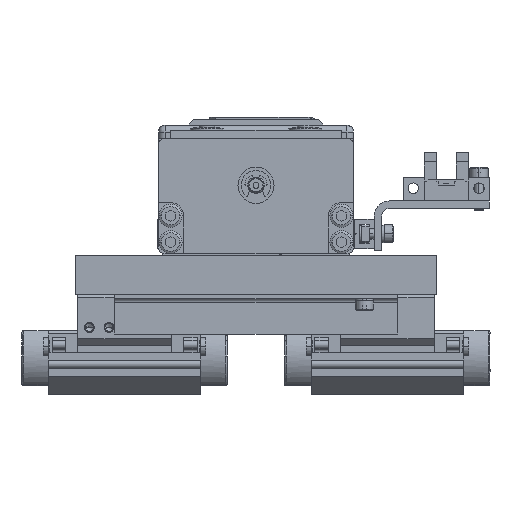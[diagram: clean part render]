
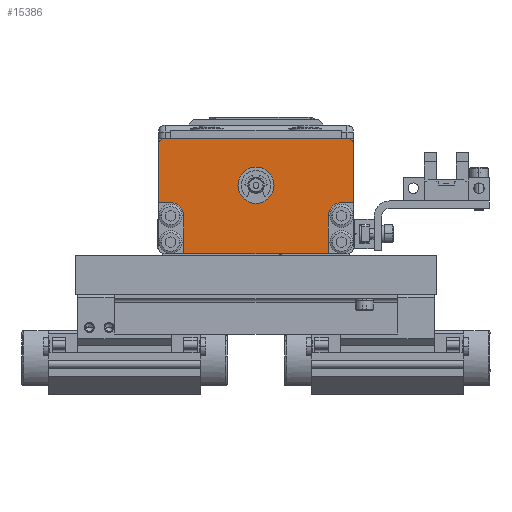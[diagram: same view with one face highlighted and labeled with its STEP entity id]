
A CAD part, front view. The second image highlights one B-rep face of the part: STEP entity #15386.
In plain terms, the highlighted planar face has unit normal (0, -1, 0) as drawn and (1, 0, 0) by its records, which use the part's own axes.
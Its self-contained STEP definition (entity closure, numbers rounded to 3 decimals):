
#282 = VECTOR ( 'NONE', #4202, 1000. ) ;
#1353 = LINE ( 'NONE', #82277, #282 ) ;
#2786 = CARTESIAN_POINT ( 'NONE',  ( 11., -9.3, 26. ) ) ;
#2871 = CARTESIAN_POINT ( 'NONE',  ( 11., -9.3, -22. ) ) ;
#2984 = FACE_BOUND ( 'NONE', #76307, .T. ) ;
#3980 = EDGE_CURVE ( 'NONE', #40652, #16389, #11954, .T. ) ;
#4202 = DIRECTION ( 'NONE',  ( 0., 1., 0. ) ) ;
#4353 = DIRECTION ( 'NONE',  ( 1., 0., 0. ) ) ;
#4380 = VERTEX_POINT ( 'NONE', #66827 ) ;
#5463 = DIRECTION ( 'NONE',  ( -1., 0., 0. ) ) ;
#5477 = EDGE_CURVE ( 'NONE', #81484, #4380, #46360, .T. ) ;
#5943 = DIRECTION ( 'NONE',  ( 0., 0., 1. ) ) ;
#6011 = EDGE_CURVE ( 'NONE', #11008, #52977, #12235, .T. ) ;
#6095 = EDGE_CURVE ( 'NONE', #36552, #67584, #82985, .T. ) ;
#6241 = ORIENTED_EDGE ( 'NONE', *, *, #79368, .T. ) ;
#6594 = DIRECTION ( 'NONE',  ( 0., 1., 0. ) ) ;
#7627 = ORIENTED_EDGE ( 'NONE', *, *, #3980, .F. ) ;
#9186 = VECTOR ( 'NONE', #24264, 1000. ) ;
#11008 = VERTEX_POINT ( 'NONE', #48322 ) ;
#11023 = DIRECTION ( 'NONE',  ( 0., 0., -1. ) ) ;
#11325 = FACE_OUTER_BOUND ( 'NONE', #27346, .T. ) ;
#11954 = CIRCLE ( 'NONE', #14274, 5.5 ) ;
#12235 = CIRCLE ( 'NONE', #21662, 2. ) ;
#12958 = DIRECTION ( 'NONE',  ( 0., 0., 1. ) ) ;
#13265 = AXIS2_PLACEMENT_3D ( 'NONE', #84131, #77811, #11023 ) ;
#13316 = EDGE_CURVE ( 'NONE', #11008, #4380, #64963, .T. ) ;
#14274 = AXIS2_PLACEMENT_3D ( 'NONE', #76414, #35929, #55475 ) ;
#15386 = ADVANCED_FACE ( 'NONE', ( #2984, #11325 ), #79330, .F. ) ;
#16197 = CARTESIAN_POINT ( 'NONE',  ( 11., 12.2, -29.7 ) ) ;
#16389 = VERTEX_POINT ( 'NONE', #82038 ) ;
#16481 = ORIENTED_EDGE ( 'NONE', *, *, #13316, .T. ) ;
#17511 = ORIENTED_EDGE ( 'NONE', *, *, #6011, .F. ) ;
#17552 = EDGE_CURVE ( 'NONE', #17904, #25543, #73005, .T. ) ;
#17600 = VERTEX_POINT ( 'NONE', #64872 ) ;
#17904 = VERTEX_POINT ( 'NONE', #74871 ) ;
#18006 = CIRCLE ( 'NONE', #13265, 5.5 ) ;
#18581 = CARTESIAN_POINT ( 'NONE',  ( 11., -5.3, 0. ) ) ;
#19202 = ORIENTED_EDGE ( 'NONE', *, *, #23596, .F. ) ;
#19260 = LINE ( 'NONE', #66226, #45932 ) ;
#19365 = ORIENTED_EDGE ( 'NONE', *, *, #84030, .F. ) ;
#19898 = ORIENTED_EDGE ( 'NONE', *, *, #6095, .F. ) ;
#20746 = ORIENTED_EDGE ( 'NONE', *, *, #17552, .F. ) ;
#21295 = ORIENTED_EDGE ( 'NONE', *, *, #77738, .T. ) ;
#21662 = AXIS2_PLACEMENT_3D ( 'NONE', #76545, #37788, #24334 ) ;
#23596 = EDGE_CURVE ( 'NONE', #16389, #40652, #18006, .T. ) ;
#24264 = DIRECTION ( 'NONE',  ( 0., 0., -1. ) ) ;
#24334 = DIRECTION ( 'NONE',  ( 0., 0., 1. ) ) ;
#24599 = EDGE_CURVE ( 'NONE', #50622, #17904, #70047, .T. ) ;
#25543 = VERTEX_POINT ( 'NONE', #2871 ) ;
#25966 = AXIS2_PLACEMENT_3D ( 'NONE', #35682, #61815, #29104 ) ;
#27346 = EDGE_LOOP ( 'NONE', ( #55096, #19898, #28720, #19365, #44061, #21295, #20746, #67465, #6241, #17511, #16481, #85113 ) ) ;
#28383 = EDGE_CURVE ( 'NONE', #69742, #17600, #32874, .T. ) ;
#28720 = ORIENTED_EDGE ( 'NONE', *, *, #55024, .F. ) ;
#29104 = DIRECTION ( 'NONE',  ( 0., 0., 1. ) ) ;
#30479 = DIRECTION ( 'NONE',  ( 0., 0., -1. ) ) ;
#30837 = CARTESIAN_POINT ( 'NONE',  ( 11., -20.8, 29.7 ) ) ;
#32028 = DIRECTION ( 'NONE',  ( 0., 0., 1. ) ) ;
#32874 = LINE ( 'NONE', #30837, #9186 ) ;
#33045 = VECTOR ( 'NONE', #70820, 1000. ) ;
#35192 = LINE ( 'NONE', #70241, #42478 ) ;
#35682 = CARTESIAN_POINT ( 'NONE',  ( 11., -21.3, 0. ) ) ;
#35929 = DIRECTION ( 'NONE',  ( 1., 0., 0. ) ) ;
#36552 = VERTEX_POINT ( 'NONE', #61236 ) ;
#36949 = DIRECTION ( 'NONE',  ( 0., -1., 0. ) ) ;
#37053 = CARTESIAN_POINT ( 'NONE',  ( 11., -5.3, -29.7 ) ) ;
#37732 = CARTESIAN_POINT ( 'NONE',  ( 11., -20.8, -22. ) ) ;
#37788 = DIRECTION ( 'NONE',  ( -1., 0., 0. ) ) ;
#40652 = VERTEX_POINT ( 'NONE', #84983 ) ;
#42478 = VECTOR ( 'NONE', #36949, 1000. ) ;
#43351 = AXIS2_PLACEMENT_3D ( 'NONE', #77240, #4353, #30479 ) ;
#44061 = ORIENTED_EDGE ( 'NONE', *, *, #28383, .T. ) ;
#44514 = CARTESIAN_POINT ( 'NONE',  ( 11., 12.2, 27.7 ) ) ;
#45562 = CARTESIAN_POINT ( 'NONE',  ( 11., 14.2, 29.7 ) ) ;
#45932 = VECTOR ( 'NONE', #6594, 1000. ) ;
#46255 = CIRCLE ( 'NONE', #61587, 4. ) ;
#46360 = CIRCLE ( 'NONE', #56296, 2. ) ;
#48322 = CARTESIAN_POINT ( 'NONE',  ( 11., 14.2, -27.7 ) ) ;
#48806 = DIRECTION ( 'NONE',  ( 0., 0., -1. ) ) ;
#48973 = CARTESIAN_POINT ( 'NONE',  ( 11., -20.8, 22. ) ) ;
#49706 = VERTEX_POINT ( 'NONE', #84327 ) ;
#50622 = VERTEX_POINT ( 'NONE', #37053 ) ;
#52977 = VERTEX_POINT ( 'NONE', #16197 ) ;
#54817 = DIRECTION ( 'NONE',  ( 1., 0., 0. ) ) ;
#55024 = EDGE_CURVE ( 'NONE', #49706, #36552, #46255, .T. ) ;
#55096 = ORIENTED_EDGE ( 'NONE', *, *, #63274, .T. ) ;
#55475 = DIRECTION ( 'NONE',  ( 0., 0., -1. ) ) ;
#56296 = AXIS2_PLACEMENT_3D ( 'NONE', #44514, #5463, #12958 ) ;
#60203 = CARTESIAN_POINT ( 'NONE',  ( 11., 12.2, 29.7 ) ) ;
#61236 = CARTESIAN_POINT ( 'NONE',  ( 11., -5.3, 26. ) ) ;
#61587 = AXIS2_PLACEMENT_3D ( 'NONE', #2786, #54817, #48806 ) ;
#61815 = DIRECTION ( 'NONE',  ( -1., 0., 0. ) ) ;
#63274 = EDGE_CURVE ( 'NONE', #81484, #67584, #35192, .T. ) ;
#63476 = VECTOR ( 'NONE', #32028, 1000. ) ;
#64169 = CARTESIAN_POINT ( 'NONE',  ( 11., -5.3, 29.7 ) ) ;
#64481 = CARTESIAN_POINT ( 'NONE',  ( 11., -5.3, 0. ) ) ;
#64872 = CARTESIAN_POINT ( 'NONE',  ( 11., -20.8, -22. ) ) ;
#64963 = LINE ( 'NONE', #45562, #66018 ) ;
#66018 = VECTOR ( 'NONE', #5943, 1000. ) ;
#66226 = CARTESIAN_POINT ( 'NONE',  ( 11., -21.3, 22. ) ) ;
#66827 = CARTESIAN_POINT ( 'NONE',  ( 11., 14.2, 27.7 ) ) ;
#67465 = ORIENTED_EDGE ( 'NONE', *, *, #24599, .F. ) ;
#67584 = VERTEX_POINT ( 'NONE', #64169 ) ;
#69742 = VERTEX_POINT ( 'NONE', #48973 ) ;
#70047 = LINE ( 'NONE', #64481, #33045 ) ;
#70241 = CARTESIAN_POINT ( 'NONE',  ( 11., -20.8, 29.7 ) ) ;
#70820 = DIRECTION ( 'NONE',  ( 0., 0., 1. ) ) ;
#73005 = CIRCLE ( 'NONE', #43351, 4. ) ;
#74871 = CARTESIAN_POINT ( 'NONE',  ( 11., -5.3, -26. ) ) ;
#75532 = LINE ( 'NONE', #37732, #84754 ) ;
#76307 = EDGE_LOOP ( 'NONE', ( #19202, #7627 ) ) ;
#76414 = CARTESIAN_POINT ( 'NONE',  ( 11., 0., 0. ) ) ;
#76545 = CARTESIAN_POINT ( 'NONE',  ( 11., 12.2, -27.7 ) ) ;
#77240 = CARTESIAN_POINT ( 'NONE',  ( 11., -9.3, -26. ) ) ;
#77738 = EDGE_CURVE ( 'NONE', #17600, #25543, #75532, .T. ) ;
#77811 = DIRECTION ( 'NONE',  ( 1., 0., 0. ) ) ;
#79330 = PLANE ( 'NONE',  #25966 ) ;
#79368 = EDGE_CURVE ( 'NONE', #50622, #52977, #1353, .T. ) ;
#81484 = VERTEX_POINT ( 'NONE', #60203 ) ;
#82038 = CARTESIAN_POINT ( 'NONE',  ( 11., 0., -5.5 ) ) ;
#82277 = CARTESIAN_POINT ( 'NONE',  ( 11., -20.8, -29.7 ) ) ;
#82985 = LINE ( 'NONE', #18581, #63476 ) ;
#84030 = EDGE_CURVE ( 'NONE', #69742, #49706, #19260, .T. ) ;
#84131 = CARTESIAN_POINT ( 'NONE',  ( 11., 0., 0. ) ) ;
#84217 = DIRECTION ( 'NONE',  ( 0., 1., 0. ) ) ;
#84327 = CARTESIAN_POINT ( 'NONE',  ( 11., -9.3, 22. ) ) ;
#84754 = VECTOR ( 'NONE', #84217, 1000. ) ;
#84983 = CARTESIAN_POINT ( 'NONE',  ( 11., 0., 5.5 ) ) ;
#85113 = ORIENTED_EDGE ( 'NONE', *, *, #5477, .F. ) ;
